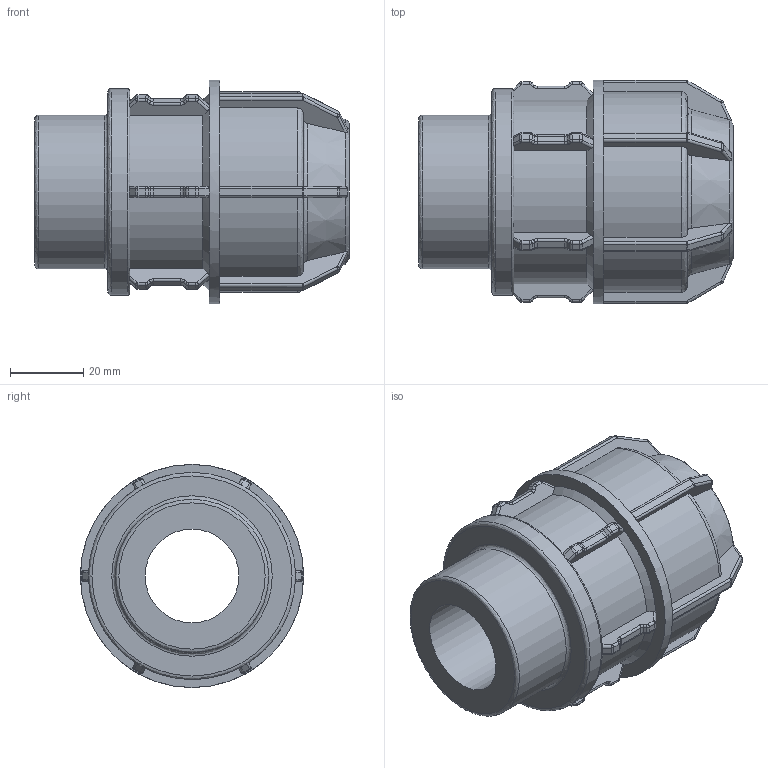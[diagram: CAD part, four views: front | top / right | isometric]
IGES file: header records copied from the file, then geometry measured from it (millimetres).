
Global section: file name: 140200032013.ipt; native system: Autodesk Inventor 2015; preprocessor: unknown; author: KIM; date: 20180409.130935; units: millimetre
Bounding box: 86 x 61 x 61 mm (x, y, z)
Volume: 108845.8 mm3; surface area: 28861.1 mm2
Topology: 1 solids, 1 shells, 471 faces, 1176 edges, 704 vertices
Faces by surface type: cylinder 171, plane 159, revolution 129, cone 12
Full cylindrical faces by diameter (mm): 41.91 x1, 56.578 x1, 61 x1
